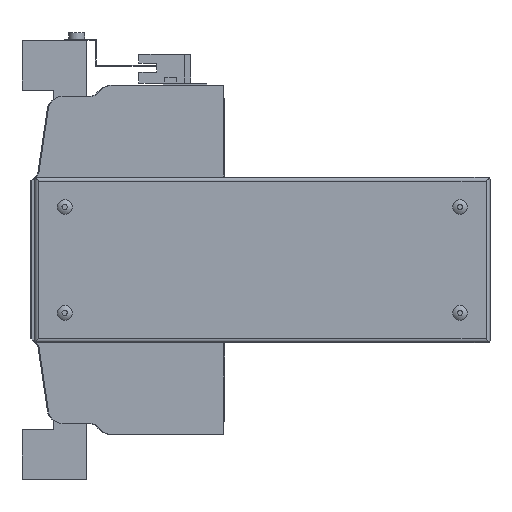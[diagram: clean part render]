
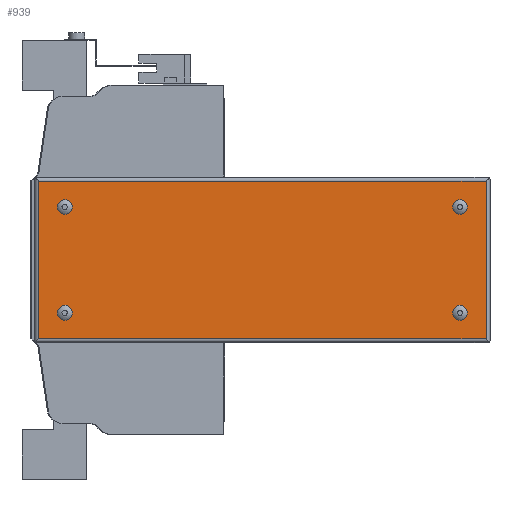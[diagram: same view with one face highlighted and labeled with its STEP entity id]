
A CAD part, left-side view. The second image highlights one B-rep face of the part: STEP entity #939.
In plain terms, the highlighted planar face has unit normal (-1, 0, 0).
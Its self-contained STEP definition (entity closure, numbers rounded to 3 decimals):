
#939 = ADVANCED_FACE( '', ( #2239, #2240, #2241, #2242, #2243 ), #2244, .F. );
#2239 = FACE_BOUND( '', #4026, .T. );
#2240 = FACE_BOUND( '', #4027, .T. );
#2241 = FACE_BOUND( '', #4028, .T. );
#2242 = FACE_BOUND( '', #4029, .T. );
#2243 = FACE_OUTER_BOUND( '', #4030, .T. );
#2244 = PLANE( '', #4031 );
#4026 = EDGE_LOOP( '', ( #6513 ) );
#4027 = EDGE_LOOP( '', ( #6514 ) );
#4028 = EDGE_LOOP( '', ( #6515 ) );
#4029 = EDGE_LOOP( '', ( #6516 ) );
#4030 = EDGE_LOOP( '', ( #6517, #6518, #6519, #6520 ) );
#4031 = AXIS2_PLACEMENT_3D( '', #6521, #6522, #6523 );
#6513 = ORIENTED_EDGE( '', *, *, #10984, .F. );
#6514 = ORIENTED_EDGE( '', *, *, #10985, .F. );
#6515 = ORIENTED_EDGE( '', *, *, #10986, .F. );
#6516 = ORIENTED_EDGE( '', *, *, #10987, .F. );
#6517 = ORIENTED_EDGE( '', *, *, #10343, .F. );
#6518 = ORIENTED_EDGE( '', *, *, #10988, .F. );
#6519 = ORIENTED_EDGE( '', *, *, #10433, .T. );
#6520 = ORIENTED_EDGE( '', *, *, #10552, .T. );
#6521 = CARTESIAN_POINT( '', ( -66., -131.95, 40.5 ) );
#6522 = DIRECTION( '', ( 1., 0., 0. ) );
#6523 = DIRECTION( '', ( 0., 0., -1. ) );
#10343 = EDGE_CURVE( '', #12264, #12266, #12267, .T. );
#10433 = EDGE_CURVE( '', #12431, #12432, #12433, .T. );
#10552 = EDGE_CURVE( '', #12432, #12266, #12640, .T. );
#10984 = EDGE_CURVE( '', #13383, #13383, #13384, .F. );
#10985 = EDGE_CURVE( '', #13385, #13385, #13386, .F. );
#10986 = EDGE_CURVE( '', #13387, #13387, #13388, .F. );
#10987 = EDGE_CURVE( '', #13389, #13389, #13390, .F. );
#10988 = EDGE_CURVE( '', #12431, #12264, #13391, .T. );
#12264 = VERTEX_POINT( '', #15119 );
#12266 = VERTEX_POINT( '', #15121 );
#12267 = LINE( '', #15122, #15123 );
#12431 = VERTEX_POINT( '', #15354 );
#12432 = VERTEX_POINT( '', #15355 );
#12433 = LINE( '', #15356, #15357 );
#12640 = LINE( '', #15655, #15656 );
#13383 = VERTEX_POINT( '', #16695 );
#13384 = CIRCLE( '', #16696, 3.7 );
#13385 = VERTEX_POINT( '', #16697 );
#13386 = CIRCLE( '', #16698, 3.7 );
#13387 = VERTEX_POINT( '', #16699 );
#13388 = CIRCLE( '', #16700, 3.7 );
#13389 = VERTEX_POINT( '', #16701 );
#13390 = CIRCLE( '', #16702, 3.7 );
#13391 = LINE( '', #16703, #16704 );
#15119 = CARTESIAN_POINT( '', ( -66., 93.05, 39.5 ) );
#15121 = CARTESIAN_POINT( '', ( -66., -130.95, 39.5 ) );
#15122 = CARTESIAN_POINT( '', ( -66., 228., 39.5 ) );
#15123 = VECTOR( '', #19032, 1000. );
#15354 = CARTESIAN_POINT( '', ( -66., 93.05, -39.5 ) );
#15355 = CARTESIAN_POINT( '', ( -66., -130.95, -39.5 ) );
#15356 = CARTESIAN_POINT( '', ( -66., 228., -39.5 ) );
#15357 = VECTOR( '', #19131, 1000. );
#15655 = CARTESIAN_POINT( '', ( -66., -130.95, -83. ) );
#15656 = VECTOR( '', #19255, 1000. );
#16695 = CARTESIAN_POINT( '', ( -66., -117.95, 22.8 ) );
#16696 = AXIS2_PLACEMENT_3D( '', #19764, #19765, #19766 );
#16697 = CARTESIAN_POINT( '', ( -66., -117.95, -30.2 ) );
#16698 = AXIS2_PLACEMENT_3D( '', #19767, #19768, #19769 );
#16699 = CARTESIAN_POINT( '', ( -66., 80.05, 22.8 ) );
#16700 = AXIS2_PLACEMENT_3D( '', #19770, #19771, #19772 );
#16701 = CARTESIAN_POINT( '', ( -66., 80.05, -30.2 ) );
#16702 = AXIS2_PLACEMENT_3D( '', #19773, #19774, #19775 );
#16703 = CARTESIAN_POINT( '', ( -66., 93.05, -83. ) );
#16704 = VECTOR( '', #19776, 1000. );
#19032 = DIRECTION( '', ( 0., -1., 0. ) );
#19131 = DIRECTION( '', ( 0., -1., 0. ) );
#19255 = DIRECTION( '', ( 0., 0., 1. ) );
#19764 = CARTESIAN_POINT( '', ( -66., -117.95, 26.5 ) );
#19765 = DIRECTION( '', ( 1., 0., 0. ) );
#19766 = DIRECTION( '', ( 0., 0., -1. ) );
#19767 = CARTESIAN_POINT( '', ( -66., -117.95, -26.5 ) );
#19768 = DIRECTION( '', ( 1., 0., 0. ) );
#19769 = DIRECTION( '', ( 0., 0., -1. ) );
#19770 = CARTESIAN_POINT( '', ( -66., 80.05, 26.5 ) );
#19771 = DIRECTION( '', ( 1., 0., 0. ) );
#19772 = DIRECTION( '', ( 0., 0., -1. ) );
#19773 = CARTESIAN_POINT( '', ( -66., 80.05, -26.5 ) );
#19774 = DIRECTION( '', ( 1., 0., 0. ) );
#19775 = DIRECTION( '', ( 0., 0., -1. ) );
#19776 = DIRECTION( '', ( 0., 0., 1. ) );
